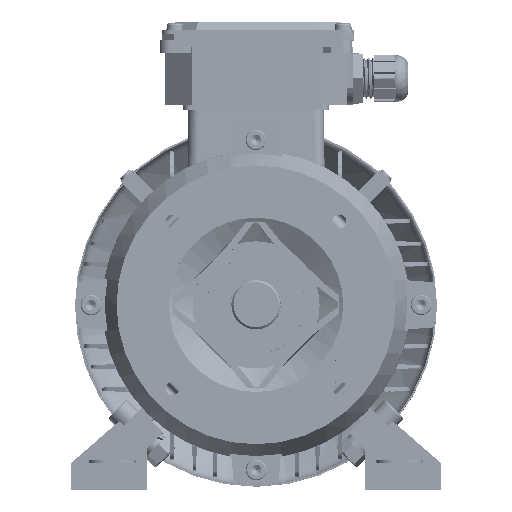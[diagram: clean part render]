
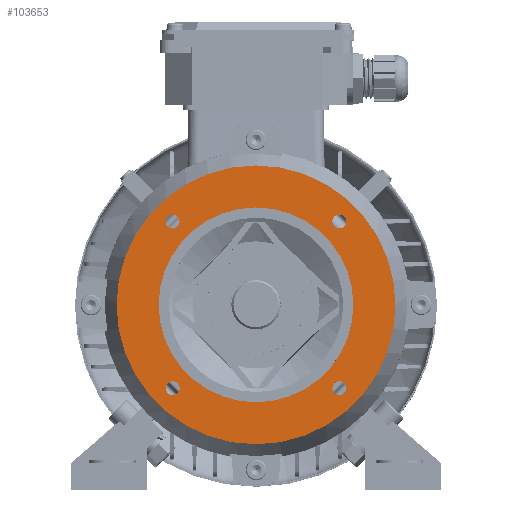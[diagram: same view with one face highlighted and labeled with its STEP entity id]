
A CAD part, top view. The second image highlights one B-rep face of the part: STEP entity #103653.
In plain terms, the highlighted planar face has unit normal (0, 0, 1) as drawn and (0, -1, 0) by its records, which use the part's own axes.
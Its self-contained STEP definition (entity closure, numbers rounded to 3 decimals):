
#90 = VERTEX_POINT ( 'NONE', #44994 ) ;
#1139 = DIRECTION ( 'NONE',  ( 0., 0., -1. ) ) ;
#1837 = DIRECTION ( 'NONE',  ( 0., 0., -1. ) ) ;
#1864 = EDGE_CURVE ( 'NONE', #90, #42357, #9461, .T. ) ;
#2075 = FACE_BOUND ( 'NONE', #47817, .T. ) ;
#6000 = PLANE ( 'NONE',  #152446 ) ;
#7030 = ORIENTED_EDGE ( 'NONE', *, *, #143239, .F. ) ;
#7639 = ORIENTED_EDGE ( 'NONE', *, *, #1864, .F. ) ;
#7682 = DIRECTION ( 'NONE',  ( 0., 0., -1. ) ) ;
#8987 = EDGE_CURVE ( 'NONE', #108360, #115609, #41637, .T. ) ;
#9141 = DIRECTION ( 'NONE',  ( 0., -1., 0. ) ) ;
#9461 = CIRCLE ( 'NONE', #94427, 3.4 ) ;
#10218 = CARTESIAN_POINT ( 'NONE',  ( 40.659, -10., 40.659 ) ) ;
#10372 = CARTESIAN_POINT ( 'NONE',  ( -40.659, -10., -37.259 ) ) ;
#11360 = CARTESIAN_POINT ( 'NONE',  ( 40.659, -10., -44.059 ) ) ;
#13342 = CARTESIAN_POINT ( 'NONE',  ( 0., -10., -68. ) ) ;
#14147 = CIRCLE ( 'NONE', #113400, 3.4 ) ;
#14192 = VERTEX_POINT ( 'NONE', #24450 ) ;
#15956 = VERTEX_POINT ( 'NONE', #76467 ) ;
#16331 = AXIS2_PLACEMENT_3D ( 'NONE', #146006, #73506, #1139 ) ;
#17670 = AXIS2_PLACEMENT_3D ( 'NONE', #34891, #119325, #46969 ) ;
#18191 = DIRECTION ( 'NONE',  ( 0., 0., -1. ) ) ;
#18715 = CARTESIAN_POINT ( 'NONE',  ( 0., -10., 47.5 ) ) ;
#19025 = AXIS2_PLACEMENT_3D ( 'NONE', #36230, #120680, #48318 ) ;
#22405 = DIRECTION ( 'NONE',  ( 0., 0., -1. ) ) ;
#23638 = CIRCLE ( 'NONE', #37399, 68. ) ;
#24450 = CARTESIAN_POINT ( 'NONE',  ( -40.659, -10., -44.059 ) ) ;
#25778 = CARTESIAN_POINT ( 'NONE',  ( 0., -10., 0. ) ) ;
#27676 = EDGE_CURVE ( 'NONE', #34923, #40637, #49243, .T. ) ;
#32135 = CIRCLE ( 'NONE', #32209, 3.4 ) ;
#32209 = AXIS2_PLACEMENT_3D ( 'NONE', #10218, #94660, #22405 ) ;
#32417 = CARTESIAN_POINT ( 'NONE',  ( 0., -10., 68. ) ) ;
#33553 = EDGE_CURVE ( 'NONE', #148790, #15956, #155733, .T. ) ;
#33918 = VERTEX_POINT ( 'NONE', #32417 ) ;
#34305 = FACE_BOUND ( 'NONE', #142826, .T. ) ;
#34598 = CARTESIAN_POINT ( 'NONE',  ( 40.659, -10., 37.259 ) ) ;
#34891 = CARTESIAN_POINT ( 'NONE',  ( 0., -10., 0. ) ) ;
#34923 = VERTEX_POINT ( 'NONE', #18715 ) ;
#35711 = EDGE_CURVE ( 'NONE', #115609, #108360, #14147, .T. ) ;
#36230 = CARTESIAN_POINT ( 'NONE',  ( -40.659, -10., 40.659 ) ) ;
#37399 = AXIS2_PLACEMENT_3D ( 'NONE', #81519, #9141, #93612 ) ;
#37877 = DIRECTION ( 'NONE',  ( 0., 0., -1. ) ) ;
#38087 = FACE_BOUND ( 'NONE', #104987, .T. ) ;
#38378 = EDGE_CURVE ( 'NONE', #14192, #72726, #66328, .T. ) ;
#40637 = VERTEX_POINT ( 'NONE', #149306 ) ;
#41637 = CIRCLE ( 'NONE', #16331, 3.4 ) ;
#42002 = CARTESIAN_POINT ( 'NONE',  ( 47.5, -10., 0. ) ) ;
#42357 = VERTEX_POINT ( 'NONE', #34598 ) ;
#42500 = VERTEX_POINT ( 'NONE', #13342 ) ;
#44994 = CARTESIAN_POINT ( 'NONE',  ( 40.659, -10., 44.059 ) ) ;
#46969 = DIRECTION ( 'NONE',  ( 0., 0., -1. ) ) ;
#47817 = EDGE_LOOP ( 'NONE', ( #51125, #120818 ) ) ;
#48318 = DIRECTION ( 'NONE',  ( 0., 0., -1. ) ) ;
#49243 = CIRCLE ( 'NONE', #84239, 47.5 ) ;
#51125 = ORIENTED_EDGE ( 'NONE', *, *, #8987, .F. ) ;
#53081 = CARTESIAN_POINT ( 'NONE',  ( -40.659, -10., -40.659 ) ) ;
#53346 = ORIENTED_EDGE ( 'NONE', *, *, #119085, .T. ) ;
#57476 = AXIS2_PLACEMENT_3D ( 'NONE', #141136, #68718, #153316 ) ;
#61161 = DIRECTION ( 'NONE',  ( 0., -1., 0. ) ) ;
#65148 = DIRECTION ( 'NONE',  ( 0., 0., -1. ) ) ;
#66328 = CIRCLE ( 'NONE', #110626, 3.4 ) ;
#68718 = DIRECTION ( 'NONE',  ( 0., -1., 0. ) ) ;
#70707 = CARTESIAN_POINT ( 'NONE',  ( 40.659, -10., -40.659 ) ) ;
#71191 = ORIENTED_EDGE ( 'NONE', *, *, #27676, .F. ) ;
#72726 = VERTEX_POINT ( 'NONE', #10372 ) ;
#73506 = DIRECTION ( 'NONE',  ( 0., -1., 0. ) ) ;
#74213 = DIRECTION ( 'NONE',  ( 0., -1., 0. ) ) ;
#74896 = EDGE_CURVE ( 'NONE', #42357, #90, #32135, .T. ) ;
#76467 = CARTESIAN_POINT ( 'NONE',  ( -40.659, -10., 44.059 ) ) ;
#80030 = DIRECTION ( 'NONE',  ( 0., -1., 0. ) ) ;
#81519 = CARTESIAN_POINT ( 'NONE',  ( 0., -10., 0. ) ) ;
#81995 = ORIENTED_EDGE ( 'NONE', *, *, #153504, .F. ) ;
#82839 = DIRECTION ( 'NONE',  ( 0., 0., -1. ) ) ;
#84239 = AXIS2_PLACEMENT_3D ( 'NONE', #146699, #74213, #1837 ) ;
#88345 = CARTESIAN_POINT ( 'NONE',  ( -40.659, -10., 37.259 ) ) ;
#90469 = DIRECTION ( 'NONE',  ( 0., -1., 0. ) ) ;
#91146 = ORIENTED_EDGE ( 'NONE', *, *, #33553, .F. ) ;
#93612 = DIRECTION ( 'NONE',  ( 0., 0., -1. ) ) ;
#94427 = AXIS2_PLACEMENT_3D ( 'NONE', #152533, #80030, #7682 ) ;
#94552 = CIRCLE ( 'NONE', #127041, 47.5 ) ;
#94659 = FACE_BOUND ( 'NONE', #97497, .T. ) ;
#94660 = DIRECTION ( 'NONE',  ( 0., -1., 0. ) ) ;
#97497 = EDGE_LOOP ( 'NONE', ( #81995, #71191 ) ) ;
#98409 = FACE_BOUND ( 'NONE', #148800, .T. ) ;
#100657 = ORIENTED_EDGE ( 'NONE', *, *, #112810, .F. ) ;
#103653 = ADVANCED_FACE ( 'NONE', ( #38087, #34305, #98409, #2075, #126892, #94659 ), #6000, .T. ) ;
#104987 = EDGE_LOOP ( 'NONE', ( #91146, #100657 ) ) ;
#107058 = EDGE_CURVE ( 'NONE', #33918, #42500, #23638, .T. ) ;
#107385 = ORIENTED_EDGE ( 'NONE', *, *, #38378, .F. ) ;
#108360 = VERTEX_POINT ( 'NONE', #11360 ) ;
#109695 = AXIS2_PLACEMENT_3D ( 'NONE', #133532, #61161, #145735 ) ;
#110171 = DIRECTION ( 'NONE',  ( 0., -1., 0. ) ) ;
#110626 = AXIS2_PLACEMENT_3D ( 'NONE', #53081, #137594, #65148 ) ;
#112810 = EDGE_CURVE ( 'NONE', #15956, #148790, #141499, .T. ) ;
#113400 = AXIS2_PLACEMENT_3D ( 'NONE', #70707, #155281, #82839 ) ;
#115609 = VERTEX_POINT ( 'NONE', #146744 ) ;
#119085 = EDGE_CURVE ( 'NONE', #42500, #33918, #154876, .T. ) ;
#119325 = DIRECTION ( 'NONE',  ( 0., -1., 0. ) ) ;
#120680 = DIRECTION ( 'NONE',  ( 0., -1., 0. ) ) ;
#120818 = ORIENTED_EDGE ( 'NONE', *, *, #35711, .F. ) ;
#122173 = ORIENTED_EDGE ( 'NONE', *, *, #74896, .F. ) ;
#123188 = ORIENTED_EDGE ( 'NONE', *, *, #107058, .T. ) ;
#126892 = FACE_OUTER_BOUND ( 'NONE', #143149, .T. ) ;
#127041 = AXIS2_PLACEMENT_3D ( 'NONE', #25778, #110171, #37877 ) ;
#133532 = CARTESIAN_POINT ( 'NONE',  ( -40.659, -10., 40.659 ) ) ;
#137594 = DIRECTION ( 'NONE',  ( 0., -1., 0. ) ) ;
#141136 = CARTESIAN_POINT ( 'NONE',  ( -40.659, -10., -40.659 ) ) ;
#141499 = CIRCLE ( 'NONE', #109695, 3.4 ) ;
#141730 = CIRCLE ( 'NONE', #57476, 3.4 ) ;
#142826 = EDGE_LOOP ( 'NONE', ( #122173, #7639 ) ) ;
#143149 = EDGE_LOOP ( 'NONE', ( #123188, #53346 ) ) ;
#143239 = EDGE_CURVE ( 'NONE', #72726, #14192, #141730, .T. ) ;
#145735 = DIRECTION ( 'NONE',  ( 0., 0., -1. ) ) ;
#146006 = CARTESIAN_POINT ( 'NONE',  ( 40.659, -10., -40.659 ) ) ;
#146699 = CARTESIAN_POINT ( 'NONE',  ( 0., -10., 0. ) ) ;
#146744 = CARTESIAN_POINT ( 'NONE',  ( 40.659, -10., -37.259 ) ) ;
#148790 = VERTEX_POINT ( 'NONE', #88345 ) ;
#148800 = EDGE_LOOP ( 'NONE', ( #107385, #7030 ) ) ;
#149306 = CARTESIAN_POINT ( 'NONE',  ( 0., -10., -47.5 ) ) ;
#152446 = AXIS2_PLACEMENT_3D ( 'NONE', #42002, #90469, #18191 ) ;
#152533 = CARTESIAN_POINT ( 'NONE',  ( 40.659, -10., 40.659 ) ) ;
#153316 = DIRECTION ( 'NONE',  ( 0., 0., -1. ) ) ;
#153504 = EDGE_CURVE ( 'NONE', #40637, #34923, #94552, .T. ) ;
#154876 = CIRCLE ( 'NONE', #17670, 68. ) ;
#155281 = DIRECTION ( 'NONE',  ( 0., -1., 0. ) ) ;
#155733 = CIRCLE ( 'NONE', #19025, 3.4 ) ;
